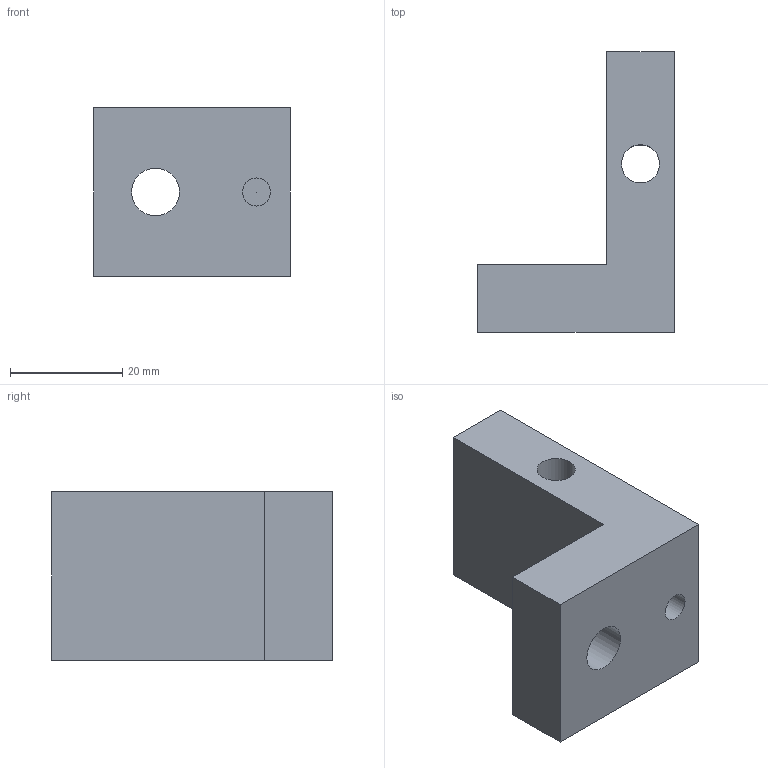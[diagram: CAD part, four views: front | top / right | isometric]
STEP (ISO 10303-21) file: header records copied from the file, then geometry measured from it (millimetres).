
FILE_DESCRIPTION(/* description */ (''),/* implementation_level */ '2;1');
FILE_NAME(/* name */ '038_staffa_regolaz#3.stp',/* time_stamp */ '2020-01-08T15:11:02+01:00',/* author */ (''),/* organization */ (''),/* preprocessor_version */ 'ST-DEVELOPER v16.7',/* originating_system */ 'SIEMENS PLM Software NX 12.0',/* authorisation */ '');
FILE_SCHEMA (('AUTOMOTIVE_DESIGN { 1 0 10303 214 3 1 1 1 }'));
Length unit declared in the file: millimetre
Products named in the file (1): bez2C70411Cqd1t
Bounding box: 35 x 50 x 30 mm (x, y, z)
Volume: 24138.9 mm3; surface area: 7688.9 mm2
Topology: 1 solids, 1 shells, 13 faces, 33 edges, 22 vertices
Faces by surface type: plane 8, cylinder 3, cone 2
Full cylindrical faces by diameter (mm): 5 x1, 6.8 x1, 8.5 x1
Entity records: 386 total; most frequent: DIRECTION 60, CARTESIAN_POINT 59, ORIENTED_EDGE 50, EDGE_CURVE 25, EDGE_LOOP 22, AXIS2_PLACEMENT_3D 21, VERTEX_POINT 20, FACE_BOUND 19
